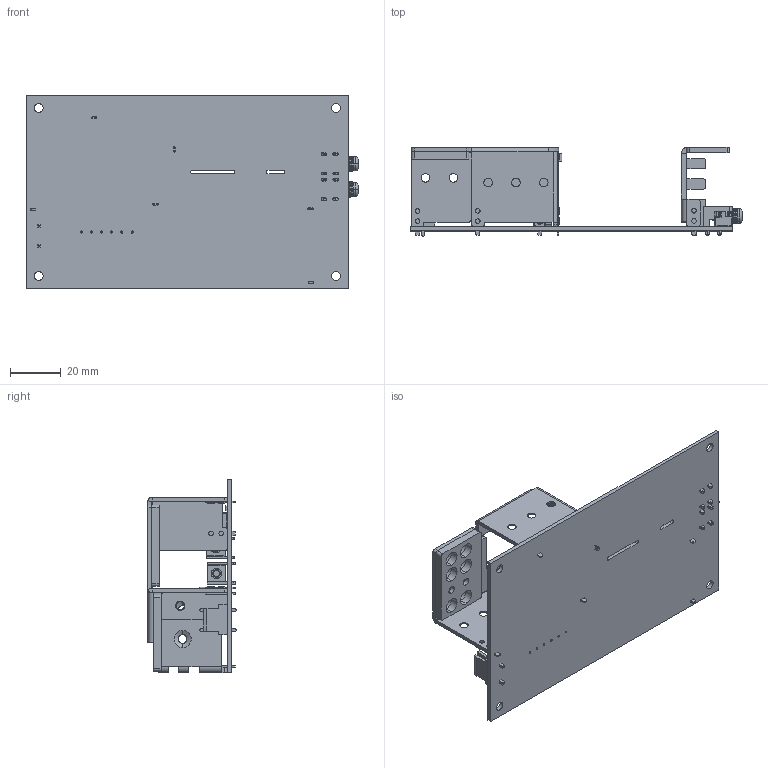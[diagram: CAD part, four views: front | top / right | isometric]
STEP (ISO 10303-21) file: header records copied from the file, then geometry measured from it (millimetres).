
FILE_DESCRIPTION((''),'2;1');
FILE_NAME('PJH-XXV300WBXX_PD00_ASM','2019-10-09T',('Anothai'),(''),'PRO/ENGINEER BY PARAMETRIC TECHNOLOGY CORPORATION, 2010180','PRO/ENGINEER BY PARAMETRIC TECHNOLOGY CORPORATION, 2010180','');
FILE_SCHEMA(('CONFIG_CONTROL_DESIGN','SHAPE_APPEARANCE_LAYERS_GROUPS'));
Length unit declared in the file: millimetre
Products named in the file (28): PWB-36V300W-1; PWB_LAYOUT_T-1108; PWB_LAYOUT_B-1108; PWB-XXV300W-1_ASM; 334765700101_A1_29; 334765700101_A2_27; 334765700101_A10; 334765700101_A11; 334765700101_ASM; ASSY_HS1_ASM; 334765690000_A; 334765690000_PIN_AF2_1; 334765690000_PIN_AF3_1; 334765690000_ASM; ASSY_HS2_AF0_ASM; 334765670000; 334765670000_PIN_AF4_1; 334765670000_PIN_AF5_1; 334765670000_ASM; ASSY_HS3_AF0_ASM; 334765680000; ASSY_HS4_ASM; 3352090900_PCB-12; VR151; 3071121000_CN1; 3100301000_M3_; ASSY_PWB-XXV300W-1_ASM; PJH-XXV300WBXX_PD00_ASM
Assembly tree (29 placements, depth 5):
  PJH-XXV300WBXX_PD00_ASM
    ASSY_PWB-XXV300W-1_ASM
      PWB-XXV300W-1_ASM
        PWB-36V300W-1
        PWB_LAYOUT_T-1108
        PWB_LAYOUT_B-1108
      ASSY_HS1_ASM
        334765700101_ASM
          334765700101_A1_29
          334765700101_A2_27
          334765700101_A10
          334765700101_A11
      ASSY_HS2_AF0_ASM
        334765690000_ASM
          334765690000_A
          334765690000_PIN_AF2_1
          334765690000_PIN_AF3_1
      ASSY_HS3_AF0_ASM
        334765670000_ASM
          334765670000
          334765670000_PIN_AF4_1
          334765670000_PIN_AF5_1
      ASSY_HS4_ASM
        334765680000
      3352090900_PCB-12  x2
      VR151
      3071121000_CN1
      3100301000_M3_  x2
Bounding box: 130.7 x 35 x 76.2 mm (x, y, z)
Volume: 29111.2 mm3; surface area: 39757.4 mm2
Topology: 19 solids, 19 shells, 1210 faces, 3022 edges, 1918 vertices
Faces by surface type: plane 686, cylinder 428, cone 52, bspline 24, torus 20
Entity records: 42520 total; most frequent: CARTESIAN_POINT 5950, DIRECTION 5740, ORIENTED_EDGE 5272, EDGE_CURVE 2636, PRESENTATION_STYLE_ASSIGNMENT 2376, STYLED_ITEM 2097, CURVE_STYLE 2088, AXIS2_PLACEMENT_3D 1993
